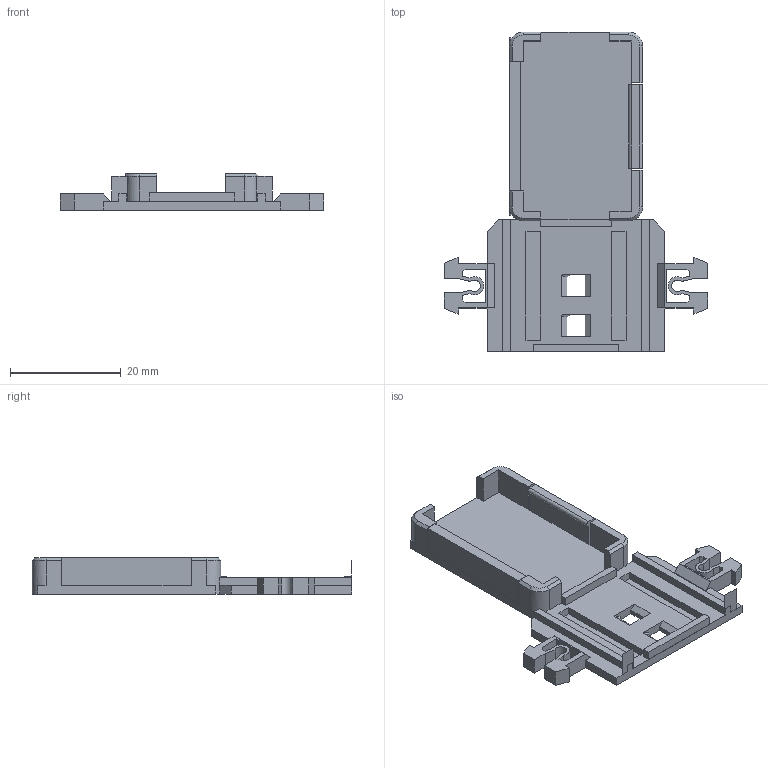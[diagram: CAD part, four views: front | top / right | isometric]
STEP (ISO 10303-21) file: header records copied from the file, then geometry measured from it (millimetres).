
FILE_DESCRIPTION(('Open CASCADE Model'),'2;1');
FILE_NAME('Open CASCADE Shape Model','2026-08-15T16:10:24',('Author'),( 'Open CASCADE'),'Open CASCADE STEP processor 7.9','Open CASCADE 7.9' ,'Unknown');
FILE_SCHEMA(('AUTOMOTIVE_DESIGN { 1 0 10303 214 1 1 1 1 }'));
Length unit declared in the file: millimetre
Products named in the file (1): Open CASCADE STEP translator 7.9 9
Bounding box: 47.5 x 57.62 x 6.6 mm (x, y, z)
Volume: 3462.9 mm3; surface area: 5257.4 mm2
Topology: 1 solids, 1 shells, 184 faces, 525 edges, 346 vertices
Faces by surface type: plane 167, cylinder 13, cone 4
Entity records: 12787 total; most frequent: CARTESIAN_POINT 2306, DIRECTION 1916, LINE 1459, VECTOR 1459, ORIENTED_EDGE 1050, PCURVE 1050, DEFINITIONAL_REPRESENTATION 1050, EDGE_CURVE 525
